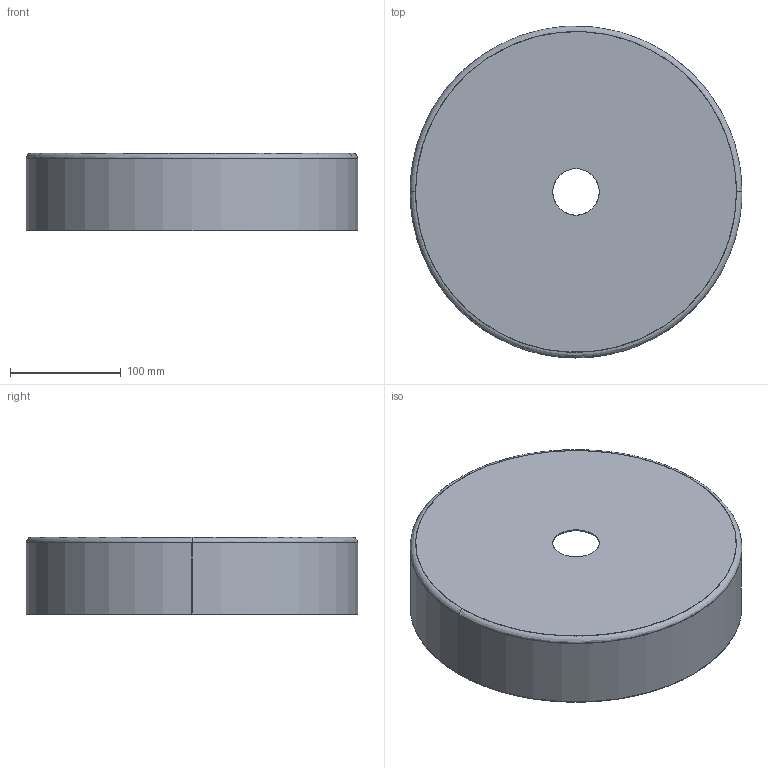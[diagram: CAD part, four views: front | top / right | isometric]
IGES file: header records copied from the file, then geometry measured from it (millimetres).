
Start section: SolidWorks IGES file using analytic representation for surfaces
Global section: file name: \\srvficheros\grupos\DISENYO\DESARROLLO DE PRODUCTO\_3D_WEB\JARVIS-1CAM370841\JARVIS-1CAM370841.IGS; native system: SolidWorks 2025; preprocessor: SolidWorks 2025; author: d.pons; date: 260114.090733; units: millimetre
Bounding box: 300 x 300 x 70 mm (x, y, z)
Surface area: 265655.6 mm2 (no closed solid volume)
Topology: 0 solids, 0 shells, 13 faces, 360 edges, 360 vertices
Faces by surface type: bspline 7, revolution 6
